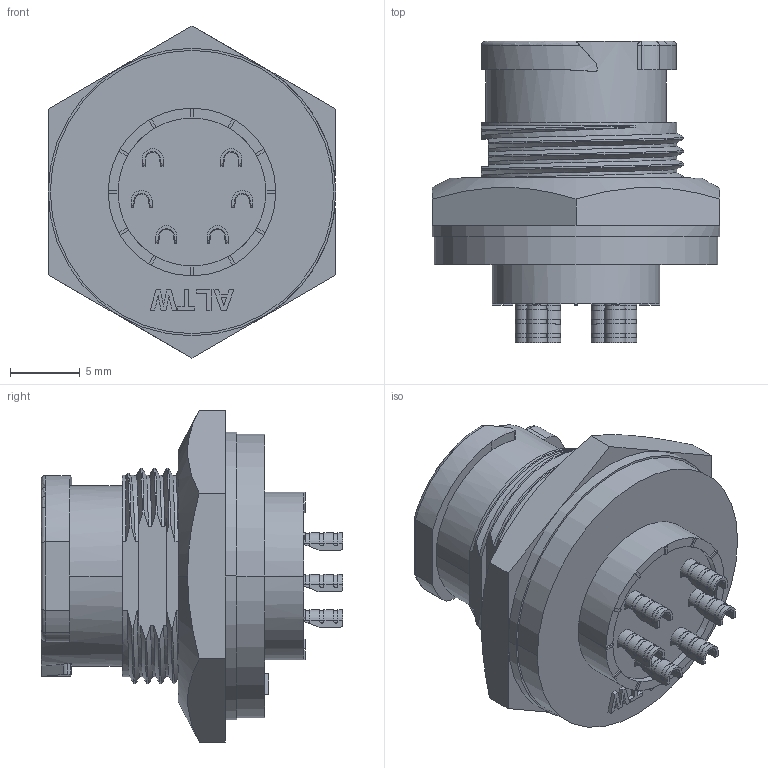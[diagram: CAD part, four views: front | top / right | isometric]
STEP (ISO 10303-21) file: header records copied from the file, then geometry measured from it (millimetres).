
FILE_DESCRIPTION((''),'2;1');
FILE_NAME('BD-08PMMS-QC8001_SW0001','2022-07-29T',('K210190'),(''),'PRO/ENGINEER BY PARAMETRIC TECHNOLOGY CORPORATION, 2013050','PRO/ENGINEER BY PARAMETRIC TECHNOLOGY CORPORATION, 2013050','');
FILE_SCHEMA(('CONFIG_CONTROL_DESIGN'));
Length unit declared in the file: millimetre
Products named in the file (1): BD-08PMMS-QC8001_SW0001
Bounding box: 20.6 x 21.6 x 23.79 mm (x, y, z)
Volume: 2971.3 mm3; surface area: 2953.9 mm2
Topology: 1 solids, 1 shells, 922 faces, 2821 edges, 1911 vertices
Faces by surface type: plane 457, cylinder 336, bspline 48, extrusion 30, cone 26, torus 25
Entity records: 40623 total; most frequent: CARTESIAN_POINT 13571, ORIENTED_EDGE 5642, DIRECTION 4828, EDGE_CURVE 2821, VERTEX_POINT 1911, AXIS2_PLACEMENT_3D 1634, VECTOR 1560, LINE 1530
